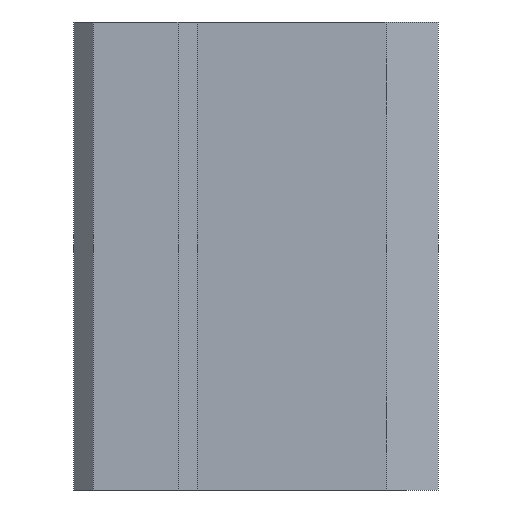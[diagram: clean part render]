
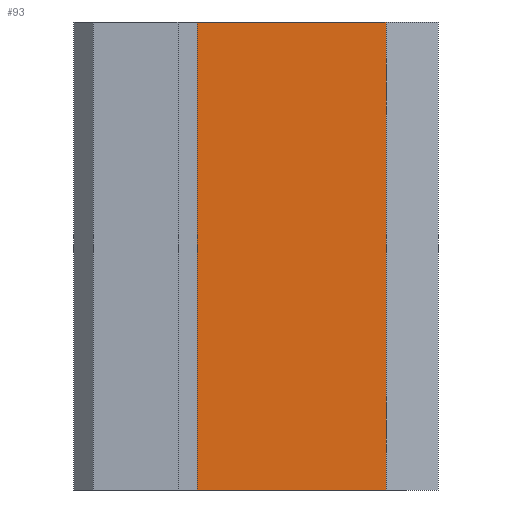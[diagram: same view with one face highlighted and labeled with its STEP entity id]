
A CAD part, left-side view. The second image highlights one B-rep face of the part: STEP entity #93.
In plain terms, the highlighted planar face has unit normal (-1, 0, 0).
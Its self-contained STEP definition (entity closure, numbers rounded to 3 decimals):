
#93=ADVANCED_FACE('',(#182),#183,.F.);
#182=FACE_OUTER_BOUND('',#335,.T.);
#183=PLANE('',#336);
#335=EDGE_LOOP('',(#603,#604,#605,#606));
#336=AXIS2_PLACEMENT_3D('',#607,#608,#609);
#603=ORIENTED_EDGE('',*,*,#947,.T.);
#604=ORIENTED_EDGE('',*,*,#970,.F.);
#605=ORIENTED_EDGE('',*,*,#917,.F.);
#606=ORIENTED_EDGE('',*,*,#971,.T.);
#607=CARTESIAN_POINT('',(-19.5,5.5,18.0));
#608=DIRECTION('',(1.0,0.,0.0));
#609=DIRECTION('',(0.,1.0,0.0));
#917=EDGE_CURVE('',#1067,#1069,#1070,.T.);
#947=EDGE_CURVE('',#1129,#1127,#1130,.T.);
#970=EDGE_CURVE('',#1069,#1127,#1162,.T.);
#971=EDGE_CURVE('',#1067,#1129,#1163,.T.);
#1067=VERTEX_POINT('',#1315);
#1069=VERTEX_POINT('',#1318);
#1070=LINE('',#1319,#1320);
#1127=VERTEX_POINT('',#1401);
#1129=VERTEX_POINT('',#1404);
#1130=LINE('',#1405,#1406);
#1162=LINE('',#1454,#1455);
#1163=LINE('',#1456,#1457);
#1315=CARTESIAN_POINT('',(-19.5,5.5,18.0));
#1318=CARTESIAN_POINT('',(-19.5,-9.0,18.0));
#1319=CARTESIAN_POINT('',(-19.5,5.5,18.0));
#1320=VECTOR('',#1621,1.0);
#1401=CARTESIAN_POINT('',(-19.5,-9.0,-18.0));
#1404=CARTESIAN_POINT('',(-19.5,5.5,-18.0));
#1405=CARTESIAN_POINT('',(-19.5,5.5,-18.0));
#1406=VECTOR('',#1659,1.0);
#1454=CARTESIAN_POINT('',(-19.5,-9.0,18.0));
#1455=VECTOR('',#1694,1.0);
#1456=CARTESIAN_POINT('',(-19.5,5.5,18.0));
#1457=VECTOR('',#1695,1.0);
#1621=DIRECTION('',(0.,-1.0,0.0));
#1659=DIRECTION('',(0.,-1.0,0.0));
#1694=DIRECTION('',(0.0,0.0,-1.0));
#1695=DIRECTION('',(0.0,0.0,-1.0));
